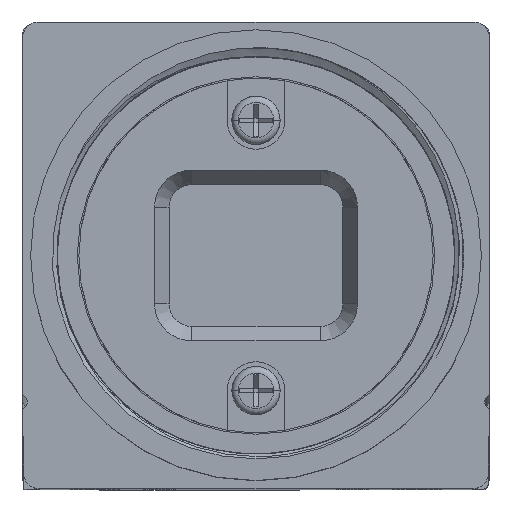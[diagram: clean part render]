
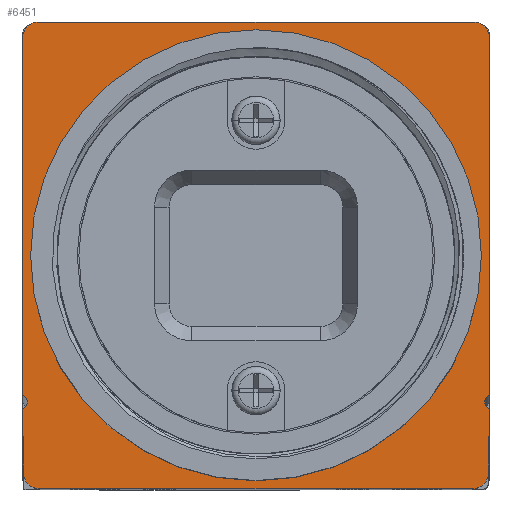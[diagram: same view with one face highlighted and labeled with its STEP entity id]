
A CAD part, top view. The second image highlights one B-rep face of the part: STEP entity #6451.
In plain terms, the highlighted planar face has unit normal (0, 0, 1).
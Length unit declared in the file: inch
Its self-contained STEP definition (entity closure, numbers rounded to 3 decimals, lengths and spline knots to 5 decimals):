
#56=CARTESIAN_POINT('',(0.52878,-0.5315,0.));
#57=DIRECTION('',(0.,0.,-1.));
#58=DIRECTION('',(1.,-0.017,0.));
#59=AXIS2_PLACEMENT_3D('',#56,#57,#58);
#61=DIRECTION('',(-1.,0.,0.));
#62=VECTOR('',#61,1.05756);
#63=CARTESIAN_POINT('',(0.52878,-0.57087,0.));
#64=LINE('',#63,#62);
#65=CARTESIAN_POINT('',(-0.52878,-0.5315,0.));
#66=DIRECTION('',(0.,0.,-1.));
#67=DIRECTION('',(0.,-1.,0.));
#68=AXIS2_PLACEMENT_3D('',#65,#66,#67);
#70=DIRECTION('',(-0.017,1.,0.));
#71=VECTOR('',#70,0.1559);
#72=CARTESIAN_POINT('',(-0.56815,-0.53218,0.));
#73=LINE('',#72,#71);
#74=CARTESIAN_POINT('',(-0.57874,-0.35827,0.));
#75=DIRECTION('',(0.,0.,1.));
#76=DIRECTION('',(0.4,-0.917,0.));
#77=AXIS2_PLACEMENT_3D('',#74,#75,#76);
#79=CARTESIAN_POINT('',(-0.57874,-0.35827,0.));
#80=DIRECTION('',(0.,0.,1.));
#81=DIRECTION('',(1.,0.,0.));
#82=AXIS2_PLACEMENT_3D('',#79,#80,#81);
#84=DIRECTION('',(0.,1.,0.));
#85=VECTOR('',#84,0.87172);
#86=CARTESIAN_POINT('',(-0.57087,-0.34023,0.));
#87=LINE('',#86,#85);
#88=CARTESIAN_POINT('',(-0.5315,0.5315,0.));
#89=DIRECTION('',(0.,0.,-1.));
#90=DIRECTION('',(-1.,0.,0.));
#91=AXIS2_PLACEMENT_3D('',#88,#89,#90);
#93=DIRECTION('',(1.,0.,0.));
#94=VECTOR('',#93,1.06299);
#95=CARTESIAN_POINT('',(-0.5315,0.57087,0.));
#96=LINE('',#95,#94);
#97=CARTESIAN_POINT('',(0.5315,0.5315,0.));
#98=DIRECTION('',(0.,0.,-1.));
#99=DIRECTION('',(0.,1.,0.));
#100=AXIS2_PLACEMENT_3D('',#97,#98,#99);
#102=DIRECTION('',(0.,-1.,0.));
#103=VECTOR('',#102,0.87172);
#104=CARTESIAN_POINT('',(0.57087,0.5315,0.));
#105=LINE('',#104,#103);
#106=CARTESIAN_POINT('',(0.57874,-0.35827,0.));
#107=DIRECTION('',(0.,0.,1.));
#108=DIRECTION('',(-0.4,0.917,0.));
#109=AXIS2_PLACEMENT_3D('',#106,#107,#108);
#111=CARTESIAN_POINT('',(0.57874,-0.35827,0.));
#112=DIRECTION('',(0.,0.,1.));
#113=DIRECTION('',(-1.,0.,0.));
#114=AXIS2_PLACEMENT_3D('',#111,#112,#113);
#116=DIRECTION('',(-0.017,-1.,0.));
#117=VECTOR('',#116,0.1559);
#118=CARTESIAN_POINT('',(0.57087,-0.37631,0.));
#119=LINE('',#118,#117);
#120=CARTESIAN_POINT('',(0.,0.,0.));
#121=DIRECTION('',(0.,0.,1.));
#122=DIRECTION('',(1.,0.,0.));
#123=AXIS2_PLACEMENT_3D('',#120,#121,#122);
#125=CARTESIAN_POINT('',(0.,0.,0.));
#126=DIRECTION('',(0.,0.,1.));
#127=DIRECTION('',(-1.,0.,0.));
#128=AXIS2_PLACEMENT_3D('',#125,#126,#127);
#5405=CARTESIAN_POINT('',(0.55118,0.,0.));
#5406=CARTESIAN_POINT('',(-0.55118,0.,0.));
#5407=VERTEX_POINT('',#5405);
#5408=VERTEX_POINT('',#5406);
#5409=CARTESIAN_POINT('',(0.56815,-0.53218,0.));
#5410=CARTESIAN_POINT('',(0.52878,-0.57087,0.));
#5411=VERTEX_POINT('',#5409);
#5412=VERTEX_POINT('',#5410);
#5413=CARTESIAN_POINT('',(-0.52878,-0.57087,0.));
#5414=VERTEX_POINT('',#5413);
#5415=CARTESIAN_POINT('',(-0.56815,-0.53218,0.));
#5416=VERTEX_POINT('',#5415);
#5417=CARTESIAN_POINT('',(-0.57087,-0.37631,0.));
#5418=VERTEX_POINT('',#5417);
#5419=CARTESIAN_POINT('',(-0.55906,-0.35827,0.));
#5420=CARTESIAN_POINT('',(-0.57087,-0.34023,0.));
#5421=VERTEX_POINT('',#5419);
#5422=VERTEX_POINT('',#5420);
#5423=CARTESIAN_POINT('',(-0.57087,0.5315,0.));
#5424=VERTEX_POINT('',#5423);
#5425=CARTESIAN_POINT('',(-0.5315,0.57087,0.));
#5426=VERTEX_POINT('',#5425);
#5427=CARTESIAN_POINT('',(0.5315,0.57087,0.));
#5428=VERTEX_POINT('',#5427);
#5429=CARTESIAN_POINT('',(0.57087,0.5315,0.));
#5430=VERTEX_POINT('',#5429);
#5431=CARTESIAN_POINT('',(0.57087,-0.34023,0.));
#5432=VERTEX_POINT('',#5431);
#5433=CARTESIAN_POINT('',(0.55906,-0.35827,0.));
#5434=CARTESIAN_POINT('',(0.57087,-0.37631,0.));
#5435=VERTEX_POINT('',#5433);
#5436=VERTEX_POINT('',#5434);
#6411=CARTESIAN_POINT('',(0.,0.,0.));
#6412=DIRECTION('',(0.,0.,1.));
#6413=DIRECTION('',(1.,0.,0.));
#6414=AXIS2_PLACEMENT_3D('',#6411,#6412,#6413);
#6415=PLANE('',#6414);
#6417=ORIENTED_EDGE('',*,*,#6416,.T.);
#6419=ORIENTED_EDGE('',*,*,#6418,.T.);
#6421=ORIENTED_EDGE('',*,*,#6420,.T.);
#6423=ORIENTED_EDGE('',*,*,#6422,.T.);
#6425=ORIENTED_EDGE('',*,*,#6424,.T.);
#6427=ORIENTED_EDGE('',*,*,#6426,.T.);
#6429=ORIENTED_EDGE('',*,*,#6428,.T.);
#6431=ORIENTED_EDGE('',*,*,#6430,.T.);
#6433=ORIENTED_EDGE('',*,*,#6432,.T.);
#6435=ORIENTED_EDGE('',*,*,#6434,.T.);
#6437=ORIENTED_EDGE('',*,*,#6436,.T.);
#6439=ORIENTED_EDGE('',*,*,#6438,.T.);
#6441=ORIENTED_EDGE('',*,*,#6440,.T.);
#6443=ORIENTED_EDGE('',*,*,#6442,.T.);
#6444=EDGE_LOOP('',(#6417,#6419,#6421,#6423,#6425,#6427,#6429,#6431,#6433,#6435,
#6437,#6439,#6441,#6443));
#6445=FACE_OUTER_BOUND('',#6444,.F.);
#6446=ORIENTED_EDGE('',*,*,#6401,.T.);
#6448=ORIENTED_EDGE('',*,*,#6447,.T.);
#6449=EDGE_LOOP('',(#6446,#6448));
#6450=FACE_BOUND('',#6449,.F.);
#6451=ADVANCED_FACE('',(#6445,#6450),#6415,.T.);
#60=CIRCLE('',#59,0.03937);
#69=CIRCLE('',#68,0.03937);
#78=CIRCLE('',#77,0.01969);
#83=CIRCLE('',#82,0.01969);
#92=CIRCLE('',#91,0.03937);
#101=CIRCLE('',#100,0.03937);
#110=CIRCLE('',#109,0.01969);
#115=CIRCLE('',#114,0.01969);
#124=CIRCLE('',#123,0.55118);
#129=CIRCLE('',#128,0.55118);
#6401=EDGE_CURVE('',#5407,#5408,#124,.T.);
#6416=EDGE_CURVE('',#5411,#5412,#60,.T.);
#6418=EDGE_CURVE('',#5412,#5414,#64,.T.);
#6420=EDGE_CURVE('',#5414,#5416,#69,.T.);
#6422=EDGE_CURVE('',#5416,#5418,#73,.T.);
#6424=EDGE_CURVE('',#5418,#5421,#78,.T.);
#6426=EDGE_CURVE('',#5421,#5422,#83,.T.);
#6428=EDGE_CURVE('',#5422,#5424,#87,.T.);
#6430=EDGE_CURVE('',#5424,#5426,#92,.T.);
#6432=EDGE_CURVE('',#5426,#5428,#96,.T.);
#6434=EDGE_CURVE('',#5428,#5430,#101,.T.);
#6436=EDGE_CURVE('',#5430,#5432,#105,.T.);
#6438=EDGE_CURVE('',#5432,#5435,#110,.T.);
#6440=EDGE_CURVE('',#5435,#5436,#115,.T.);
#6442=EDGE_CURVE('',#5436,#5411,#119,.T.);
#6447=EDGE_CURVE('',#5408,#5407,#129,.T.);
